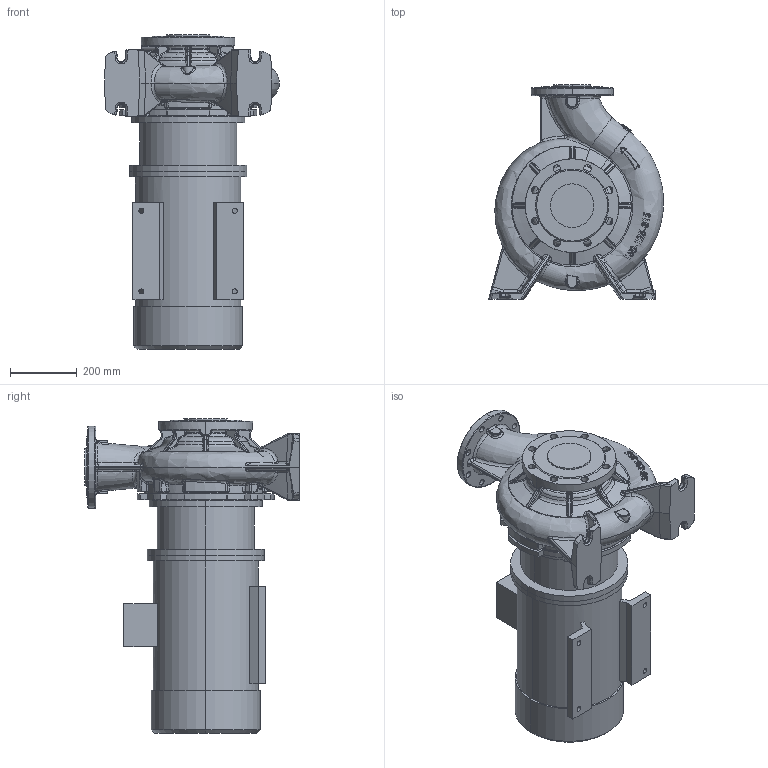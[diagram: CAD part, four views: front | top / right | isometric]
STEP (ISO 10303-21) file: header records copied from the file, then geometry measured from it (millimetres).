
FILE_DESCRIPTION (( 'STEP AP214' ), '1' );
FILE_NAME ('KRM 150-125-315-4-18,5.STEP', '2026-04-17T13:30:22', ( '' ), ( '' ), 'SwSTEP 2.0', 'SolidWorks 2016', '' );
FILE_SCHEMA (( 'AUTOMOTIVE_DESIGN' ));
Length unit declared in the file: millimetre
Products named in the file (1): KRM 150-125-315-4-18,5
Bounding box: 523.04 x 642 x 940.3 mm (x, y, z)
Volume: 91719128.4 mm3; surface area: 2663054.3 mm2
Topology: 4 solids, 4 shells, 1443 faces, 3511 edges, 2081 vertices
Faces by surface type: bspline 625, cylinder 306, plane 271, torus 111, cone 91, sphere 39
Entity records: 172549 total; most frequent: CARTESIAN_POINT 127814, ORIENTED_EDGE 6950, DIRECTION 4785, EDGE_CURVE 3475, VERTEX_POINT 2081, AXIS2_PLACEMENT_3D 2009, EDGE_LOOP 1524, UNCERTAINTY_MEASURE_WITH_UNIT 1449
